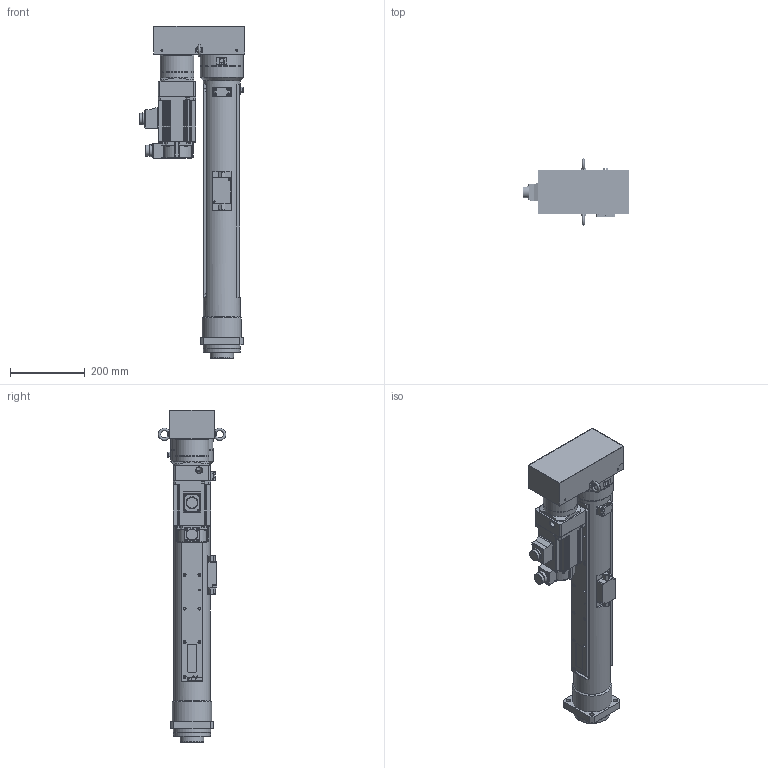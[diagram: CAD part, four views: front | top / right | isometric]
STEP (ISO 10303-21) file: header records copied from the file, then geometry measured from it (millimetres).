
FILE_DESCRIPTION( ('This file contains a STEP AP42 implementation' ,'as created by ZW3D STEP Interface translator.') ,'2;1' );
FILE_NAME( 'OACIS-DC-P010-500-200-A6V200_V20.51.stp' ,'26 414.182619', (''), ('ZWCAD Software Co.'), 'Version 1.0', 'ZW3D to STEP translator', '' );
FILE_SCHEMA(('AUTOMOTIVE_DESIGN { 1 0 10303 214 1 1 1 1 }'));
Length unit declared in the file: millimetre
Products named in the file (1): 0
Bounding box: 282.6 x 180.9 x 888 mm (x, y, z)
Volume: 6939541.1 mm3; surface area: 1420635.3 mm2
Topology: 42 solids, 45 shells, 1896 faces, 4785 edges, 3170 vertices
Faces by surface type: cylinder 802, plane 760, cone 232, torus 71, sphere 21, bspline 10
Full cylindrical faces by diameter (mm): 1.6 x8, 2.459 x5, 2.75 x4, 3.2 x5, 3.3 x100, 4.2 x4, 4.3 x36, 4.5 x4, 5 x32, 5.6 x5, 6.5 x4, 6.6 x8, 6.647 x5, 6.8 x36, 7 x12, 8 x52, 8.4 x8, 8.5 x17, 9 x4, 11 x12, 12 x1, 15 x8, 15.5 x2, 16.5 x2, 18 x3, 18.917 x2, 19 x2, 20 x5, 22 x1, 23 x1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
Entity records: 63446 total; most frequent: CARTESIAN_POINT 13374, DIRECTION 10452, ORIENTED_EDGE 9336, EDGE_CURVE 4679, AXIS2_PLACEMENT_3D 4023, VERTEX_POINT 3108, VECTOR 2406, LINE 2406
